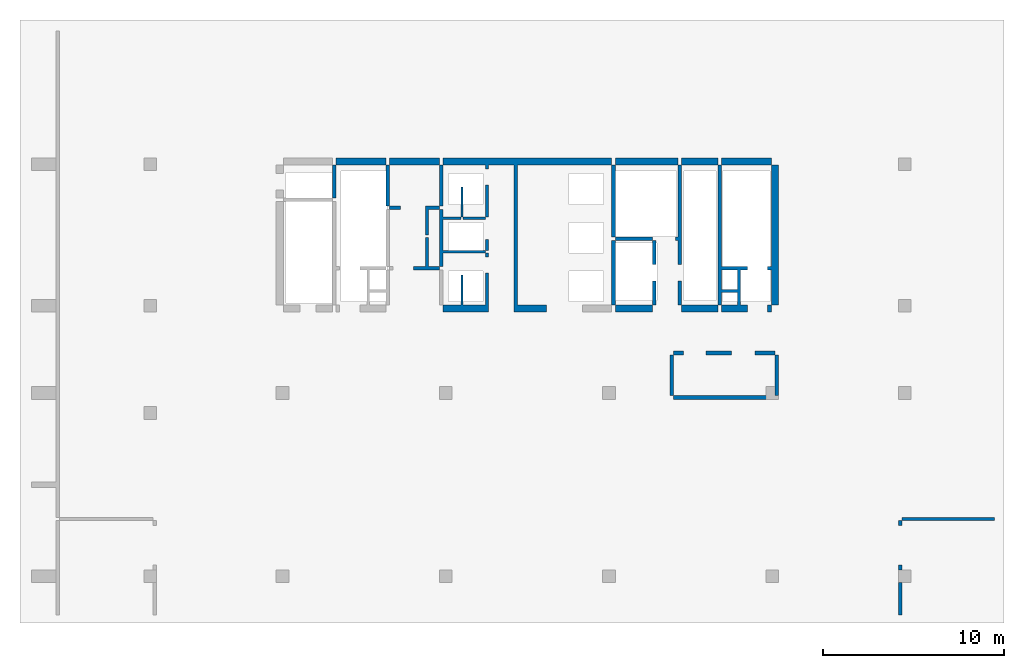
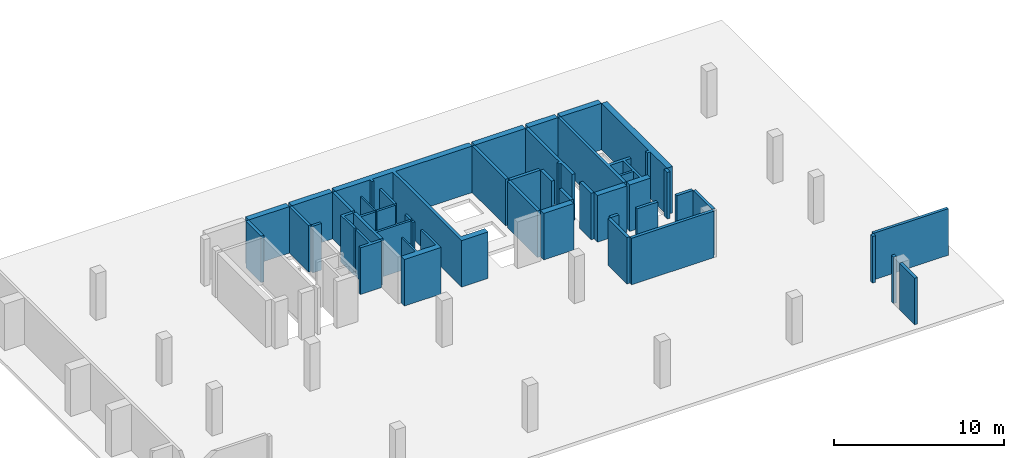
# One storey, part 2 of 2: 41 walls.
"""IFC4 building model written with IfcOpenShell, lengths in millimetres."""

from ifc_helpers import new_model, si_unit, frame, origin, place, context, project, spatial, triangles, element, save


model = new_model("IFC4")

# Units and contexts
model_context = context("Model", 3, precision=0.001, world=origin())
ifc_project = project(units=[si_unit("LENGTHUNIT", "METRE", prefix="MILLI"), si_unit("AREAUNIT", "SQUARE_METRE"), si_unit("VOLUMEUNIT", "CUBIC_METRE")], contexts=[model_context])

# Site, building, storey
site_placement = place(None, origin())
site = spatial("IfcSite", under=ifc_project, at=site_placement, Name="Site", CompositionType="ELEMENT")
building_placement = place(site_placement, origin())
building = spatial("IfcBuilding", under=site, at=building_placement, Name="INNOCEAN", CompositionType="ELEMENT")
storey_placement = place(building_placement, frame((0.0, 0.0, -16200.0)))
storey = spatial("IfcBuildingStorey", under=building, at=storey_placement, Name="B4", CompositionType="ELEMENT", Elevation=-16200.0)

# Walls
wall_1_placement = place(storey_placement, origin())
element("IfcWall", 1, at=wall_1_placement, inside=storey, Name="B4_Walls_B4_015", context=model_context, shape_type="Tessellation", body=[
    triangles([(16429.3, 23222.2, 0.0), (16429.3, 25025.8, 0.0), (16429.3, 25025.8, 3350.0), (16429.3, 23222.2, 3350.0), (16226.2, 23222.2, 0.0), (16226.2, 23222.2, 3350.0), (16226.2, 25025.8, 0.0), (16226.2, 25025.8, 3350.0)], [[1, 2, 3], [1, 3, 4], [5, 1, 4], [5, 4, 6], [7, 5, 6], [7, 6, 8], [2, 7, 8], [2, 8, 3], [7, 2, 1], [7, 1, 5], [3, 8, 4], [4, 8, 6]], closed=True),
])
wall_2_placement = place(storey_placement, origin())
element("IfcWall", 2, at=wall_2_placement, inside=storey, Name="B4_Walls_B4_018", context=model_context, shape_type="Tessellation", body=[
    triangles([(19183.7, 25419.5, 0.0), (16429.3, 25419.5, 0.0), (16429.3, 25419.5, 3350.0), (19183.7, 25419.5, 3350.0), (19183.7, 25025.8, 0.0), (19183.7, 25025.8, 3350.0), (16429.3, 25025.8, 0.0), (16429.3, 25025.8, 3350.0)], [[1, 2, 3], [1, 3, 4], [5, 1, 4], [5, 4, 6], [7, 5, 6], [7, 6, 8], [2, 7, 8], [2, 8, 3], [2, 1, 5], [2, 5, 7], [4, 3, 6], [6, 3, 8]], closed=True),
])
wall_3_placement = place(storey_placement, origin())
element("IfcWall", 3, at=wall_3_placement, inside=storey, Name="B4_Walls_B4_019", context=model_context, shape_type="Tessellation", body=[
    triangles([(23423.2, 18967.3, 0.0), (23321.7, 18967.3, 0.0), (23321.7, 18967.3, 3350.0), (23423.2, 18967.3, 3350.0), (23423.2, 18965.0, 0.0), (23423.2, 18965.0, 3350.0), (23425.0, 18965.0, 0.0), (23425.0, 18965.0, 3350.0), (23425.0, 17316.1, 3350.0), (23425.0, 17316.1, 0.0), (24679.9, 17316.1, 0.0), (24679.9, 17316.1, 3350.0), (24679.9, 19068.9, 0.0), (24679.9, 19068.9, 3350.0), (24680.0, 19068.9, 3350.0), (24680.0, 19068.9, 0.0), (24680.0, 19070.0, 0.0), (24680.0, 19070.0, 3350.0), (24830.0, 19070.0, 0.0), (24830.0, 19070.0, 3350.0), (24830.0, 19068.9, 0.0), (24830.0, 19068.9, 3350.0), (24832.2, 19068.9, 3350.0), (24832.2, 19068.9, 0.0), (24832.2, 17316.1, 0.0), (24832.2, 17316.1, 3350.0), (24832.2, 16922.4, 0.0), (24832.2, 16922.4, 3350.0), (22331.6, 16922.4, 0.0), (22331.6, 16922.4, 3350.0), (22331.6, 17316.1, 0.0), (22331.6, 17316.1, 3350.0), (23320.0, 17316.1, 0.0), (23320.0, 17316.1, 3350.0), (23320.0, 18965.0, 3350.0), (23320.0, 18965.0, 0.0), (23321.7, 18965.0, 0.0), (23321.7, 18965.0, 3350.0)], [[1, 2, 3], [1, 3, 4], [5, 1, 4], [5, 4, 6], [7, 5, 6], [7, 6, 8], [7, 8, 9], [10, 7, 9], [11, 10, 9], [11, 9, 12], [13, 11, 12], [13, 12, 14], [13, 14, 15], [16, 13, 15], [17, 16, 15], [17, 15, 18], [19, 17, 18], [19, 18, 20], [21, 19, 20], [21, 20, 22], [21, 22, 23], [24, 21, 23], [25, 24, 23], [25, 23, 26], [27, 25, 26], [27, 26, 28], [29, 27, 28], [29, 28, 30], [31, 29, 30], [31, 30, 32], [33, 31, 32], [33, 32, 34], [33, 34, 35], [36, 33, 35], [37, 36, 35], [37, 35, 38], [2, 37, 38], [2, 38, 3], [11, 25, 27], [10, 11, 27], [21, 24, 25], [21, 25, 11], [16, 19, 21], [16, 21, 11], [13, 16, 11], [17, 19, 16], [29, 10, 27], [29, 33, 10], [31, 33, 29], [5, 7, 10], [5, 10, 33], [37, 1, 5], [37, 5, 33], [36, 37, 33], [2, 1, 37], [26, 12, 28], [12, 9, 28], [23, 22, 26], [26, 22, 12], [20, 15, 22], [22, 15, 12], [15, 14, 12], [20, 18, 15], [9, 30, 28], [34, 30, 9], [34, 32, 30], [8, 6, 9], [9, 6, 34], [4, 38, 6], [6, 38, 34], [38, 35, 34], [4, 3, 38]], closed=True),
])
wall_4_placement = place(storey_placement, origin())
element("IfcWall", 4, at=wall_4_placement, inside=storey, Name="B4_Walls_B4_022", context=model_context, shape_type="Tessellation", body=[
    triangles([(21366.9, 21024.9, 0.0), (21366.9, 19449.9, 0.0), (21366.9, 19449.9, 3350.0), (21366.9, 21024.9, 3350.0), (21519.3, 21024.9, 3350.0), (21519.3, 21024.9, 0.0), (21519.3, 19449.9, 0.0), (21519.3, 19449.9, 3350.0), (22128.5, 19449.9, 0.0), (22128.5, 19449.9, 3350.0), (22128.5, 19246.7, 0.0), (22128.5, 19246.7, 3350.0), (20694.2, 19246.7, 0.0), (20694.2, 19246.7, 3350.0), (20694.2, 19449.9, 0.0), (20694.2, 19449.9, 3350.0)], [[1, 2, 3], [1, 3, 4], [1, 4, 5], [6, 1, 5], [7, 6, 5], [7, 5, 8], [9, 7, 8], [9, 8, 10], [11, 9, 10], [11, 10, 12], [13, 11, 12], [13, 12, 14], [15, 13, 14], [15, 14, 16], [2, 15, 16], [2, 16, 3], [7, 9, 11], [2, 7, 11], [13, 2, 11], [15, 2, 13], [1, 6, 7], [1, 7, 2], [10, 8, 12], [8, 3, 12], [3, 14, 12], [3, 16, 14], [5, 4, 8], [8, 4, 3]], closed=True),
])
wall_5_placement = place(storey_placement, origin())
element("IfcWall", 5, at=wall_5_placement, inside=storey, Name="B4_Walls_B4_023", context=model_context, shape_type="Tessellation", body=[
    triangles([(24832.2, 19970.7, 0.0), (24832.2, 20173.9, 0.0), (24832.2, 20173.9, 3350.0), (24832.2, 19970.7, 3350.0), (24679.9, 19970.7, 0.0), (24679.9, 19970.7, 3350.0), (24679.9, 20173.9, 0.0), (24679.9, 20173.9, 3350.0)], [[1, 2, 3], [1, 3, 4], [5, 1, 4], [5, 4, 6], [7, 5, 6], [7, 6, 8], [2, 7, 8], [2, 8, 3], [7, 2, 1], [7, 1, 5], [3, 8, 4], [4, 8, 6]], closed=True),
])
wall_6_placement = place(storey_placement, origin())
element("IfcWall", 6, at=wall_6_placement, inside=storey, Name="B4_Walls_B4_024", context=model_context, shape_type="Tessellation", body=[
    triangles([(22128.5, 22574.4, 0.0), (22128.5, 19449.9, 0.0), (22128.5, 19449.9, 3350.0), (22128.5, 22574.4, 3350.0), (22331.6, 22574.4, 0.0), (22331.6, 22574.4, 3350.0), (22331.6, 22168.0, 0.0), (22331.6, 22168.0, 3350.0), (23321.7, 22168.0, 3350.0), (23321.7, 22168.0, 0.0), (23321.7, 22015.6, 0.0), (23321.7, 22015.6, 3350.0), (22331.6, 22015.6, 3350.0), (22331.6, 22015.6, 0.0), (22331.6, 20326.3, 0.0), (22331.6, 20326.3, 3350.0), (24679.9, 20326.3, 0.0), (24679.9, 20326.3, 3350.0), (24679.9, 20173.9, 3350.0), (24679.9, 20173.9, 0.0), (22331.6, 20173.9, 0.0), (22331.6, 20173.9, 3350.0), (22331.6, 19449.9, 3350.0), (22331.6, 19449.9, 0.0)], [[1, 2, 3], [1, 3, 4], [5, 1, 4], [5, 4, 6], [7, 5, 6], [7, 6, 8], [7, 8, 9], [10, 7, 9], [11, 10, 9], [11, 9, 12], [11, 12, 13], [14, 11, 13], [15, 14, 13], [15, 13, 16], [17, 15, 16], [17, 16, 18], [17, 18, 19], [20, 17, 19], [21, 20, 19], [21, 19, 22], [21, 22, 23], [24, 21, 23], [2, 24, 23], [2, 23, 3], [21, 24, 2], [15, 17, 20], [15, 20, 21], [15, 21, 2], [14, 10, 11], [7, 10, 14], [1, 5, 7], [1, 14, 15], [1, 7, 14], [2, 1, 15], [23, 22, 3], [18, 16, 19], [19, 16, 22], [22, 16, 3], [9, 13, 12], [9, 8, 13], [6, 4, 8], [13, 4, 16], [8, 4, 13], [4, 3, 16]], closed=True),
])
wall_7_placement = place(storey_placement, origin())
element("IfcWall", 7, at=wall_7_placement, inside=storey, Name="B4_Walls_B4_025", context=model_context, shape_type="Tessellation", body=[
    triangles([(24679.9, 20326.3, 0.0), (24832.2, 20326.3, 0.0), (24832.2, 20326.3, 3350.0), (24679.9, 20326.3, 3350.0), (24679.9, 20923.3, 0.0), (24679.9, 20923.3, 3350.0), (24832.2, 20923.3, 0.0), (24832.2, 20923.3, 3350.0)], [[1, 2, 3], [1, 3, 4], [5, 1, 4], [5, 4, 6], [7, 5, 6], [7, 6, 8], [2, 7, 8], [2, 8, 3], [5, 2, 1], [5, 7, 2], [3, 6, 4], [8, 6, 3]], closed=True),
])
wall_8_placement = place(storey_placement, origin())
element("IfcWall", 8, at=wall_8_placement, inside=storey, Name="B4_Walls_B4_027", context=model_context, shape_type="Tessellation", body=[
    triangles([(22128.5, 22765.0, 0.0), (21366.9, 22765.0, 0.0), (21366.9, 22765.0, 3350.0), (22128.5, 22765.0, 3350.0), (22128.5, 22574.4, 0.0), (22128.5, 22574.4, 3350.0), (21519.3, 22574.4, 0.0), (21519.3, 22574.4, 3350.0), (21519.3, 21177.3, 0.0), (21519.3, 21177.3, 3350.0), (21366.9, 21177.3, 3350.0), (21366.9, 21177.3, 0.0), (21366.9, 22574.4, 0.0), (21366.9, 22574.4, 3350.0)], [[1, 2, 3], [1, 3, 4], [5, 1, 4], [5, 4, 6], [7, 5, 6], [7, 6, 8], [9, 7, 8], [9, 8, 10], [9, 10, 11], [12, 9, 11], [13, 12, 11], [13, 11, 14], [2, 13, 14], [2, 14, 3], [7, 1, 5], [13, 7, 9], [13, 9, 12], [2, 1, 7], [2, 7, 13], [4, 8, 6], [8, 14, 10], [10, 14, 11], [4, 3, 8], [8, 3, 14]], closed=True),
])
wall_9_placement = place(storey_placement, origin())
element("IfcWall", 9, at=wall_9_placement, inside=storey, Name="B4_Walls_B4_028", context=model_context, shape_type="Tessellation", body=[
    triangles([(23423.2, 22168.0, 0.0), (23423.2, 22168.0, 3350.0), (24679.9, 22168.0, 3350.0), (24679.9, 22168.0, 0.0), (24679.9, 22015.6, 0.0), (24679.9, 22015.6, 3350.0), (23423.2, 22015.6, 3350.0), (23423.2, 22015.6, 0.0)], [[1, 2, 3], [4, 1, 3], [5, 4, 3], [5, 3, 6], [5, 6, 7], [8, 5, 7], [1, 8, 7], [1, 7, 2], [1, 4, 5], [1, 5, 8], [3, 2, 6], [6, 2, 7]], closed=True),
])
wall_10_placement = place(storey_placement, origin())
element("IfcWall", 10, at=wall_10_placement, inside=storey, Name="B4_Walls_B4_029", context=model_context, shape_type="Tessellation", body=[
    triangles([(19970.7, 22574.4, 0.0), (19970.7, 22765.0, 0.0), (19970.7, 22765.0, 3350.0), (19970.7, 22574.4, 3350.0), (19374.1, 22574.4, 0.0), (19374.1, 22574.4, 3350.0), (19374.1, 22765.0, 0.0), (19374.1, 22765.0, 3350.0)], [[1, 2, 3], [1, 3, 4], [5, 1, 4], [5, 4, 6], [7, 5, 6], [7, 6, 8], [2, 7, 8], [2, 8, 3], [7, 2, 1], [7, 1, 5], [3, 8, 4], [4, 8, 6]], closed=True),
])
wall_11_placement = place(storey_placement, origin())
element("IfcWall", 11, at=wall_11_placement, inside=storey, Name="B4_Walls_B4_030", context=model_context, shape_type="Tessellation", body=[
    triangles([(23423.2, 23819.2, 0.0), (23423.2, 23819.2, 3350.0), (23423.2, 22168.0, 3350.0), (23423.2, 22168.0, 0.0), (23321.7, 22168.0, 0.0), (23321.7, 22168.0, 3350.0), (23321.7, 23819.2, 3350.0), (23321.7, 23819.2, 0.0)], [[1, 2, 3], [4, 1, 3], [5, 4, 3], [5, 3, 6], [5, 6, 7], [8, 5, 7], [1, 8, 7], [1, 7, 2], [8, 1, 4], [8, 4, 5], [2, 7, 3], [3, 7, 6]], closed=True),
])
wall_12_placement = place(storey_placement, origin())
element("IfcWall", 12, at=wall_12_placement, inside=storey, Name="B4_Walls_B4_031", context=model_context, shape_type="Tessellation", body=[
    triangles([(19374.1, 22765.0, 0.0), (19374.1, 25025.8, 0.0), (19374.1, 25025.8, 3350.0), (19374.1, 22765.0, 3350.0), (19183.7, 22765.0, 0.0), (19183.7, 22765.0, 3350.0), (19183.7, 25025.8, 0.0), (19183.7, 25025.8, 3350.0)], [[1, 2, 3], [1, 3, 4], [5, 1, 4], [5, 4, 6], [7, 5, 6], [7, 6, 8], [2, 7, 8], [2, 8, 3], [7, 2, 1], [7, 1, 5], [3, 8, 4], [4, 8, 6]], closed=True),
])
wall_13_placement = place(storey_placement, origin())
element("IfcWall", 13, at=wall_13_placement, inside=storey, Name="B4_Walls_B4_032", context=model_context, shape_type="Tessellation", body=[
    triangles([(22331.6, 22765.0, 0.0), (22331.6, 25025.8, 0.0), (22331.6, 25025.8, 3350.0), (22331.6, 22765.0, 3350.0), (22128.5, 22765.0, 0.0), (22128.5, 22765.0, 3350.0), (22128.5, 25025.8, 0.0), (22128.5, 25025.8, 3350.0)], [[1, 2, 3], [1, 3, 4], [5, 1, 4], [5, 4, 6], [7, 5, 6], [7, 6, 8], [2, 7, 8], [2, 8, 3], [7, 2, 1], [7, 1, 5], [3, 8, 4], [4, 8, 6]], closed=True),
])
wall_14_placement = place(storey_placement, origin())
element("IfcWall", 14, at=wall_14_placement, inside=storey, Name="B4_Walls_B4_033", context=model_context, shape_type="Tessellation", body=[
    triangles([(22128.5, 25419.5, 0.0), (19374.1, 25419.5, 0.0), (19374.1, 25419.5, 3350.0), (22128.5, 25419.5, 3350.0), (22128.5, 25025.8, 0.0), (22128.5, 25025.8, 3350.0), (19374.1, 25025.8, 0.0), (19374.1, 25025.8, 3350.0)], [[1, 2, 3], [1, 3, 4], [5, 1, 4], [5, 4, 6], [7, 5, 6], [7, 6, 8], [2, 7, 8], [2, 8, 3], [2, 1, 5], [2, 5, 7], [4, 3, 6], [6, 3, 8]], closed=True),
])
wall_15_placement = place(storey_placement, origin())
element("IfcWall", 15, at=wall_15_placement, inside=storey, Name="B4_Walls_B4_034", context=model_context, shape_type="Tessellation", body=[
    triangles([(35024.8, 14572.6, 0.0), (34821.8, 14572.6, 0.0), (34821.8, 14572.6, 3350.0), (35024.8, 14572.6, 3350.0), (35024.8, 12324.5, 0.0), (35024.8, 12324.5, 3350.0), (34821.8, 12324.5, 0.0), (34821.8, 12324.5, 3350.0)], [[1, 2, 3], [1, 3, 4], [5, 1, 4], [5, 4, 6], [7, 5, 6], [7, 6, 8], [2, 7, 8], [2, 8, 3], [2, 1, 5], [2, 5, 7], [4, 3, 6], [6, 3, 8]], closed=True),
])
wall_16_placement = place(storey_placement, origin())
element("IfcWall", 16, at=wall_16_placement, inside=storey, Name="B4_Walls_B4_035", context=model_context, shape_type="Tessellation", body=[
    triangles([(35024.8, 14572.6, 0.0), (35024.8, 14572.6, 3350.0), (35024.8, 14775.8, 3350.0), (35024.8, 14775.8, 0.0), (35570.7, 14775.8, 0.0), (35570.7, 14775.8, 3350.0), (35570.7, 14572.6, 3350.0), (35570.7, 14572.6, 0.0)], [[1, 2, 3], [4, 1, 3], [5, 4, 3], [5, 3, 6], [5, 6, 7], [8, 5, 7], [1, 8, 7], [1, 7, 2], [4, 5, 8], [4, 8, 1], [6, 3, 7], [7, 3, 2]], closed=True),
])
wall_17_placement = place(storey_placement, origin())
element("IfcWall", 17, at=wall_17_placement, inside=storey, Name="B4_Walls_B4_036", context=model_context, shape_type="Tessellation", body=[
    triangles([(38223.5, 14775.0, 0.0), (38223.5, 14775.8, 0.0), (38223.5, 14775.8, 3350.0), (38223.5, 14775.0, 3350.0), (38225.0, 14775.0, 0.0), (38225.0, 14775.0, 3350.0), (38225.0, 14575.0, 0.0), (38225.0, 14575.0, 3350.0), (38223.5, 14575.0, 0.0), (38223.5, 14575.0, 3350.0), (38223.5, 14572.6, 0.0), (38223.5, 14572.6, 3350.0), (36814.6, 14572.6, 0.0), (36814.6, 14572.6, 3350.0), (36814.6, 14775.8, 3350.0), (36814.6, 14775.8, 0.0)], [[1, 2, 3], [1, 3, 4], [5, 1, 4], [5, 4, 6], [7, 5, 6], [7, 6, 8], [9, 7, 8], [9, 8, 10], [11, 9, 10], [11, 10, 12], [13, 11, 12], [13, 12, 14], [13, 14, 15], [16, 13, 15], [2, 16, 15], [2, 15, 3], [1, 5, 7], [1, 7, 9], [13, 9, 11], [16, 2, 1], [16, 9, 13], [16, 1, 9], [6, 4, 8], [8, 4, 10], [10, 14, 12], [3, 15, 4], [10, 15, 14], [4, 15, 10]], closed=True),
])
wall_18_placement = place(storey_placement, origin())
element("IfcWall", 18, at=wall_18_placement, inside=storey, Name="B4_Walls_B4_037", context=model_context, shape_type="Tessellation", body=[
    triangles([(24832.2, 24822.6, 0.0), (24832.2, 25025.8, 0.0), (24832.2, 25025.8, 3350.0), (24832.2, 24822.6, 3350.0), (24679.9, 24822.6, 0.0), (24679.9, 24822.6, 3350.0), (24679.9, 25025.8, 0.0), (24679.9, 25025.8, 3350.0), (22331.6, 25025.8, 0.0), (22331.6, 25025.8, 3350.0), (22331.6, 25419.5, 0.0), (22331.6, 25419.5, 3350.0), (31623.1, 25419.5, 0.0), (31623.1, 25419.5, 3350.0), (31623.1, 25025.8, 0.0), (31623.1, 25025.8, 3350.0), (26431.5, 25025.8, 3350.0), (26431.5, 25025.8, 0.0), (26431.5, 17316.1, 0.0), (26431.5, 17316.1, 3350.0), (28030.9, 17316.1, 0.0), (28030.9, 17316.1, 3350.0), (28030.9, 16922.4, 0.0), (28030.9, 16922.4, 3350.0), (28030.0, 16922.4, 0.0), (28030.0, 16922.4, 3350.0), (28030.0, 16920.0, 0.0), (28030.0, 16920.0, 3350.0), (26230.0, 16920.0, 0.0), (26230.0, 16920.0, 3350.0), (26230.0, 16922.4, 0.0), (26230.0, 16922.4, 3350.0), (26228.4, 16922.4, 3350.0), (26228.4, 16922.4, 0.0), (26228.4, 17316.1, 0.0), (26228.4, 17316.1, 3350.0), (26228.4, 25025.8, 0.0), (26228.4, 25025.8, 3350.0)], [[1, 2, 3], [1, 3, 4], [5, 1, 4], [5, 4, 6], [7, 5, 6], [7, 6, 8], [9, 7, 8], [9, 8, 10], [11, 9, 10], [11, 10, 12], [13, 11, 12], [13, 12, 14], [15, 13, 14], [15, 14, 16], [17, 15, 16], [18, 15, 17], [19, 18, 17], [19, 17, 20], [21, 19, 20], [21, 20, 22], [23, 21, 22], [23, 22, 24], [25, 23, 24], [25, 24, 26], [27, 25, 26], [27, 26, 28], [29, 27, 28], [29, 28, 30], [31, 29, 30], [31, 30, 32], [31, 32, 33], [34, 31, 33], [35, 34, 33], [35, 33, 36], [37, 35, 36], [37, 36, 38], [2, 37, 38], [2, 38, 3], [21, 23, 25], [19, 25, 27], [19, 27, 29], [19, 29, 31], [19, 21, 25], [35, 31, 34], [35, 19, 31], [18, 13, 15], [37, 18, 19], [37, 19, 35], [2, 1, 5], [7, 2, 5], [11, 7, 9], [11, 13, 18], [11, 18, 37], [11, 37, 2], [11, 2, 7], [24, 22, 26], [26, 20, 28], [28, 20, 30], [30, 20, 32], [22, 20, 26], [32, 36, 33], [20, 36, 32], [14, 17, 16], [17, 38, 20], [20, 38, 36], [4, 3, 6], [3, 8, 6], [8, 12, 10], [14, 12, 17], [17, 12, 38], [38, 12, 3], [3, 12, 8]], closed=True),
])
wall_19_placement = place(storey_placement, origin())
element("IfcWall", 19, at=wall_19_placement, inside=storey, Name="B4_Walls_B4_039", context=model_context, shape_type="Tessellation", body=[
    triangles([(33869.8, 16922.4, 0.0), (33869.8, 17316.1, 0.0), (33869.8, 17316.1, 3350.0), (33869.8, 16922.4, 3350.0), (31826.2, 16922.4, 0.0), (31826.2, 16922.4, 3350.0), (31826.2, 17316.1, 0.0), (31826.2, 17316.1, 3350.0)], [[1, 2, 3], [1, 3, 4], [5, 1, 4], [5, 4, 6], [7, 5, 6], [7, 6, 8], [2, 7, 8], [2, 8, 3], [7, 2, 1], [7, 1, 5], [3, 8, 4], [4, 8, 6]], closed=True),
])
wall_20_placement = place(storey_placement, origin())
element("IfcWall", 20, at=wall_20_placement, inside=storey, Name="B4_Walls_B4_040", context=model_context, shape_type="Tessellation", body=[
    triangles([(37474.6, 16922.4, 0.0), (37474.6, 17316.1, 0.0), (37474.6, 17316.1, 3350.0), (37474.6, 16922.4, 3350.0), (35469.1, 16922.4, 0.0), (35469.1, 16922.4, 3350.0), (35469.1, 17316.1, 0.0), (35469.1, 17316.1, 3350.0)], [[1, 2, 3], [1, 3, 4], [5, 1, 4], [5, 4, 6], [7, 5, 6], [7, 6, 8], [2, 7, 8], [2, 8, 3], [7, 2, 1], [7, 1, 5], [3, 8, 4], [4, 8, 6]], closed=True),
])
wall_21_placement = place(storey_placement, origin())
element("IfcWall", 21, at=wall_21_placement, inside=storey, Name="B4_Walls_B4_041", context=model_context, shape_type="Tessellation", body=[
    triangles([(34072.9, 17316.1, 0.0), (34072.9, 18649.7, 0.0), (34072.9, 18649.7, 3350.0), (34072.9, 17316.1, 3350.0), (33869.8, 17316.1, 0.0), (33869.8, 17316.1, 3350.0), (33869.8, 18649.7, 0.0), (33869.8, 18649.7, 3350.0)], [[1, 2, 3], [1, 3, 4], [5, 1, 4], [5, 4, 6], [7, 5, 6], [7, 6, 8], [2, 7, 8], [2, 8, 3], [7, 2, 1], [7, 1, 5], [3, 8, 4], [4, 8, 6]], closed=True),
])
wall_22_placement = place(storey_placement, origin())
element("IfcWall", 22, at=wall_22_placement, inside=storey, Name="B4_Walls_B4_042", context=model_context, shape_type="Tessellation", body=[
    triangles([(35469.1, 17316.1, 0.0), (35469.1, 18649.7, 0.0), (35469.1, 18649.7, 3350.0), (35469.1, 17316.1, 3350.0), (35266.0, 17316.1, 0.0), (35266.0, 17316.1, 3350.0), (35266.0, 18649.7, 0.0), (35266.0, 18649.7, 3350.0)], [[1, 2, 3], [1, 3, 4], [5, 1, 4], [5, 4, 6], [7, 5, 6], [7, 6, 8], [2, 7, 8], [2, 8, 3], [7, 2, 1], [7, 1, 5], [3, 8, 4], [4, 8, 6]], closed=True),
])
wall_23_placement = place(storey_placement, origin())
element("IfcWall", 23, at=wall_23_placement, inside=storey, Name="B4_Walls_B4_043", context=model_context, shape_type="Tessellation", body=[
    triangles([(31826.2, 17316.1, 3350.0), (31826.2, 20872.5, 0.0), (31826.2, 20872.5, 3350.0), (31826.2, 17316.1, 0.0), (31623.1, 17316.1, 0.0), (31623.1, 17316.1, 3350.0), (31623.1, 20872.5, 3350.0), (31623.1, 20872.5, 0.0)], [[1, 2, 3], [4, 2, 1], [5, 4, 1], [5, 1, 6], [7, 5, 6], [8, 5, 7], [2, 8, 7], [2, 7, 3], [8, 2, 4], [8, 4, 5], [3, 7, 1], [1, 7, 6]], closed=True),
])
wall_24_placement = place(storey_placement, origin())
element("IfcWall", 24, at=wall_24_placement, inside=storey, Name="B4_Walls_B4_044", context=model_context, shape_type="Tessellation", body=[
    triangles([(34072.9, 19551.5, 0.0), (34072.9, 20872.5, 0.0), (34072.9, 20872.5, 3350.0), (34072.9, 19551.5, 3350.0), (33869.8, 19551.5, 0.0), (33869.8, 19551.5, 3350.0), (33869.8, 20872.5, 0.0), (33869.8, 20872.5, 3350.0)], [[1, 2, 3], [1, 3, 4], [5, 1, 4], [5, 4, 6], [7, 5, 6], [7, 6, 8], [2, 7, 8], [2, 8, 3], [7, 2, 1], [7, 1, 5], [3, 8, 4], [4, 8, 6]], closed=True),
])
wall_25_placement = place(storey_placement, origin())
element("IfcWall", 25, at=wall_25_placement, inside=storey, Name="B4_Walls_B4_045", context=model_context, shape_type="Tessellation", body=[
    triangles([(35469.1, 21075.7, 3350.0), (35469.1, 25025.8, 0.0), (35469.1, 25025.8, 3350.0), (35469.1, 21075.7, 0.0), (35469.1, 20872.5, 0.0), (35469.1, 20872.5, 3350.0), (35469.1, 19551.5, 0.0), (35469.1, 19551.5, 3350.0), (35266.0, 19551.5, 0.0), (35266.0, 19551.5, 3350.0), (35266.0, 20872.5, 0.0), (35266.0, 20872.5, 3350.0), (35126.4, 20872.5, 0.0), (35126.4, 20872.5, 3350.0), (35126.4, 21075.7, 0.0), (35126.4, 21075.7, 3350.0), (35266.0, 21075.7, 0.0), (35266.0, 21075.7, 3350.0), (35266.0, 25025.8, 3350.0), (35266.0, 25025.8, 0.0)], [[1, 2, 3], [4, 2, 1], [5, 4, 1], [5, 1, 6], [7, 5, 6], [7, 6, 8], [9, 7, 8], [9, 8, 10], [11, 9, 10], [11, 10, 12], [13, 11, 12], [13, 12, 14], [15, 13, 14], [15, 14, 16], [17, 15, 16], [17, 16, 18], [19, 17, 18], [20, 17, 19], [2, 20, 19], [2, 19, 3], [11, 5, 7], [11, 7, 9], [4, 5, 11], [17, 4, 11], [15, 11, 13], [15, 17, 11], [20, 2, 4], [20, 4, 17], [6, 12, 8], [8, 12, 10], [6, 1, 12], [1, 18, 12], [12, 16, 14], [18, 16, 12], [3, 19, 1], [1, 19, 18]], closed=True),
])
wall_26_placement = place(storey_placement, origin())
element("IfcWall", 26, at=wall_26_placement, inside=storey, Name="B4_Walls_B4_046", context=model_context, shape_type="Tessellation", body=[
    triangles([(33869.8, 20872.5, 0.0), (33869.8, 21075.7, 0.0), (33869.8, 21075.7, 3350.0), (33869.8, 20872.5, 3350.0), (31826.2, 20872.5, 0.0), (31826.2, 20872.5, 3350.0), (31826.2, 21075.7, 0.0), (31826.2, 21075.7, 3350.0)], [[1, 2, 3], [1, 3, 4], [5, 1, 4], [5, 4, 6], [7, 5, 6], [7, 6, 8], [2, 7, 8], [2, 8, 3], [7, 2, 1], [7, 1, 5], [3, 8, 4], [4, 8, 6]], closed=True),
])
wall_27_placement = place(storey_placement, origin())
element("IfcWall", 27, at=wall_27_placement, inside=storey, Name="B4_Walls_B4_047", context=model_context, shape_type="Tessellation", body=[
    triangles([(24832.2, 22168.0, 0.0), (24832.2, 23920.8, 0.0), (24832.2, 23920.8, 3350.0), (24832.2, 22168.0, 3350.0), (24679.9, 22168.0, 0.0), (24679.9, 22168.0, 3350.0), (24679.9, 23920.8, 0.0), (24679.9, 23920.8, 3350.0)], [[1, 2, 3], [1, 3, 4], [5, 1, 4], [5, 4, 6], [7, 5, 6], [7, 6, 8], [2, 7, 8], [2, 8, 3], [2, 1, 5], [7, 2, 5], [4, 3, 6], [3, 8, 6]], closed=True),
])
wall_28_placement = place(storey_placement, origin())
element("IfcWall", 28, at=wall_28_placement, inside=storey, Name="B4_Walls_B4_048", context=model_context, shape_type="Tessellation", body=[
    triangles([(31826.2, 21075.7, 3350.0), (31826.2, 25025.8, 0.0), (31826.2, 25025.8, 3350.0), (31826.2, 21075.7, 0.0), (31623.1, 21075.7, 0.0), (31623.1, 21075.7, 3350.0), (31623.1, 25025.8, 3350.0), (31623.1, 25025.8, 0.0)], [[1, 2, 3], [4, 2, 1], [5, 4, 1], [5, 1, 6], [7, 5, 6], [8, 5, 7], [2, 8, 7], [2, 7, 3], [2, 4, 5], [8, 2, 5], [1, 3, 6], [3, 7, 6]], closed=True),
])
wall_29_placement = place(storey_placement, origin())
element("IfcWall", 29, at=wall_29_placement, inside=storey, Name="B4_Walls_B4_049", context=model_context, shape_type="Tessellation", body=[
    triangles([(35266.0, 25025.8, 0.0), (35266.0, 25419.5, 0.0), (35266.0, 25419.5, 3350.0), (35266.0, 25025.8, 3350.0), (31826.2, 25025.8, 3350.0), (31826.2, 25025.8, 0.0), (31826.2, 25419.5, 0.0), (31826.2, 25419.5, 3350.0)], [[1, 2, 3], [1, 3, 4], [5, 1, 4], [6, 1, 5], [7, 6, 5], [7, 5, 8], [3, 7, 8], [2, 7, 3], [7, 2, 1], [7, 1, 6], [3, 8, 4], [4, 8, 5]], closed=True),
])
wall_30_placement = place(storey_placement, origin())
element("IfcWall", 30, at=wall_30_placement, inside=storey, Name="B4_Walls_B4_050", context=model_context, shape_type="Tessellation", body=[
    triangles([(37474.6, 25419.5, 0.0), (35469.1, 25419.5, 0.0), (35469.1, 25419.5, 3350.0), (37474.6, 25419.5, 3350.0), (37474.6, 25025.8, 0.0), (37474.6, 25025.8, 3350.0), (35469.1, 25025.8, 0.0), (35469.1, 25025.8, 3350.0)], [[1, 2, 3], [1, 3, 4], [5, 1, 4], [5, 4, 6], [7, 5, 6], [7, 6, 8], [2, 7, 8], [2, 8, 3], [2, 1, 5], [2, 5, 7], [4, 3, 6], [6, 3, 8]], closed=True),
])
wall_31_placement = place(storey_placement, origin())
element("IfcWall", 31, at=wall_31_placement, inside=storey, Name="B4_Walls_B4_051", context=model_context, shape_type="Tessellation", body=[
    triangles([(47616.5, 220.2, 0.0), (47616.5, 2023.7, 0.0), (47616.5, 2023.7, 3350.0), (47616.5, 220.2, 3350.0), (47413.4, 220.2, 0.0), (47413.4, 220.2, 3350.0), (47413.4, 2023.7, 0.0), (47413.4, 2023.7, 3350.0)], [[1, 2, 3], [1, 3, 4], [5, 1, 4], [5, 4, 6], [7, 5, 6], [7, 6, 8], [2, 7, 8], [2, 8, 3], [7, 2, 1], [7, 1, 5], [3, 8, 4], [4, 8, 6]], closed=True),
])
wall_32_placement = place(storey_placement, origin())
element("IfcWall", 32, at=wall_32_placement, inside=storey, Name="B4_Walls_B4_052", context=model_context, shape_type="Tessellation", body=[
    triangles([(47616.5, 2722.3, 0.0), (47616.5, 2976.3, 0.0), (47616.5, 2976.3, 3350.0), (47616.5, 2722.3, 3350.0), (47413.4, 2722.3, 0.0), (47413.4, 2722.3, 3350.0), (47413.4, 2976.3, 0.0), (47413.4, 2976.3, 3350.0)], [[1, 2, 3], [1, 3, 4], [5, 1, 4], [5, 4, 6], [7, 5, 6], [7, 6, 8], [2, 7, 8], [2, 8, 3], [2, 1, 5], [7, 2, 5], [4, 3, 6], [3, 8, 6]], closed=True),
])
wall_33_placement = place(storey_placement, origin())
element("IfcWall", 33, at=wall_33_placement, inside=storey, Name="B4_Walls_B4_053", context=model_context, shape_type="Tessellation", body=[
    triangles([(47413.4, 5427.7, 0.0), (47413.4, 5173.7, 0.0), (47413.4, 5173.7, 3350.0), (47413.4, 5427.7, 3350.0), (47616.5, 5427.7, 0.0), (47616.5, 5427.7, 3350.0), (47616.5, 5173.7, 0.0), (47616.5, 5173.7, 3350.0)], [[1, 2, 3], [1, 3, 4], [5, 1, 4], [5, 4, 6], [7, 5, 6], [7, 6, 8], [2, 7, 8], [2, 8, 3], [5, 7, 2], [1, 5, 2], [8, 6, 3], [6, 4, 3]], closed=True),
])
wall_34_placement = place(storey_placement, origin())
element("IfcWall", 34, at=wall_34_placement, inside=storey, Name="B4_Walls_B4_054", context=model_context, shape_type="Tessellation", body=[
    triangles([(52706.5, 5427.7, 0.0), (52706.5, 5618.2, 0.0), (52706.5, 5618.2, 3350.0), (52706.5, 5427.7, 3350.0), (47616.5, 5427.7, 0.0), (47616.5, 5427.7, 3350.0), (47616.5, 5618.2, 0.0), (47616.5, 5618.2, 3350.0)], [[1, 2, 3], [1, 3, 4], [5, 1, 4], [5, 4, 6], [7, 5, 6], [7, 6, 8], [2, 7, 8], [2, 8, 3], [7, 2, 1], [7, 1, 5], [3, 8, 4], [4, 8, 6]], closed=True),
])
wall_35_placement = place(storey_placement, origin())
element("IfcWall", 35, at=wall_35_placement, inside=storey, Name="B4_Walls_B4_055", context=model_context, shape_type="Tessellation", body=[
    triangles([(40622.6, 12121.3, 0.0), (40622.6, 12324.5, 0.0), (40622.6, 12324.5, 3350.0), (40622.6, 12121.3, 3350.0), (35024.8, 12121.3, 0.0), (35024.8, 12121.3, 3350.0), (35024.8, 12324.5, 0.0), (35024.8, 12324.5, 3350.0)], [[1, 2, 3], [1, 3, 4], [5, 1, 4], [5, 4, 6], [7, 5, 6], [7, 6, 8], [2, 7, 8], [2, 8, 3], [7, 2, 1], [7, 1, 5], [3, 8, 4], [4, 8, 6]], closed=True),
])
wall_36_placement = place(storey_placement, origin())
element("IfcWall", 36, at=wall_36_placement, inside=storey, Name="B4_Walls_B4_056", context=model_context, shape_type="Tessellation", body=[
    triangles([(40622.6, 12324.5, 0.0), (40813.0, 12324.5, 0.0), (40813.0, 12324.5, 3350.0), (40622.6, 12324.5, 3350.0), (40622.6, 14572.6, 0.0), (40622.6, 14572.6, 3350.0), (40813.0, 14572.6, 0.0), (40813.0, 14572.6, 3350.0)], [[1, 2, 3], [1, 3, 4], [5, 1, 4], [5, 4, 6], [7, 5, 6], [7, 6, 8], [2, 7, 8], [2, 8, 3], [7, 2, 1], [5, 7, 1], [3, 8, 4], [8, 6, 4]], closed=True),
])
wall_37_placement = place(storey_placement, origin())
element("IfcWall", 37, at=wall_37_placement, inside=storey, Name="B4_Walls_B4_057", context=model_context, shape_type="Tessellation", body=[
    triangles([(40622.6, 14775.8, 0.0), (40622.6, 14775.8, 3350.0), (40622.6, 14572.6, 3350.0), (40622.6, 14572.6, 0.0), (39518.2, 14572.6, 3350.0), (39518.2, 14572.6, 0.0), (39518.2, 14775.8, 3350.0), (39518.2, 14775.8, 0.0)], [[1, 2, 3], [4, 1, 3], [4, 3, 5], [6, 4, 5], [6, 5, 7], [8, 6, 7], [8, 7, 2], [1, 8, 2], [8, 1, 4], [8, 4, 6], [2, 7, 3], [3, 7, 5]], closed=True),
])
wall_38_placement = place(storey_placement, origin())
element("IfcWall", 38, at=wall_38_placement, inside=storey, Name="B4_Walls_B4_058", context=model_context, shape_type="Tessellation", body=[
    triangles([(37665.0, 17316.1, 0.0), (37665.0, 16922.4, 0.0), (37665.0, 16922.4, 3350.0), (37665.0, 17316.1, 3350.0), (39099.4, 16922.4, 0.0), (39099.4, 16922.4, 3350.0), (39099.4, 17316.1, 0.0), (39099.4, 17316.1, 3350.0), (38720.0, 17316.1, 0.0), (38720.0, 17316.1, 3350.0), (38720.0, 19245.0, 0.0), (38720.0, 19245.0, 3350.0), (39100.0, 19245.0, 0.0), (39100.0, 19245.0, 3350.0), (39100.0, 19450.0, 0.0), (39100.0, 19450.0, 3350.0), (37665.0, 19450.0, 0.0), (37665.0, 19450.0, 3350.0), (37665.0, 25025.8, 0.0), (37665.0, 25025.8, 3350.0), (37474.6, 25025.8, 0.0), (37474.6, 25025.8, 3350.0), (37474.6, 19449.9, 0.0), (37474.6, 19449.9, 3350.0), (37474.6, 17316.1, 0.0), (37474.6, 17316.1, 3350.0), (37665.0, 18014.7, 0.0), (37665.0, 18014.7, 3350.0), (38565.0, 18014.7, 0.0), (38565.0, 18014.7, 3350.0), (38565.0, 17316.1, 0.0), (38565.0, 17316.1, 3350.0), (38565.0, 19245.0, 0.0), (38565.0, 19245.0, 3350.0), (37665.0, 19245.0, 3350.0), (37665.0, 19245.0, 0.0), (38565.0, 18167.1, 0.0), (38565.0, 18167.1, 3350.0), (37665.0, 18167.1, 0.0), (37665.0, 18167.1, 3350.0)], [[1, 2, 3], [1, 3, 4], [2, 5, 6], [2, 6, 3], [5, 7, 8], [5, 8, 6], [7, 9, 10], [7, 10, 8], [9, 11, 12], [9, 12, 10], [11, 13, 14], [11, 14, 12], [15, 16, 14], [13, 15, 14], [15, 17, 18], [15, 18, 16], [17, 19, 20], [17, 20, 18], [19, 21, 22], [19, 22, 20], [21, 23, 24], [21, 24, 22], [23, 25, 26], [23, 26, 24], [25, 1, 4], [25, 4, 26], [1, 27, 28], [1, 28, 4], [29, 30, 28], [27, 29, 28], [29, 31, 32], [29, 32, 30], [1, 4, 32], [31, 1, 32], [33, 34, 35], [36, 33, 35], [33, 37, 38], [33, 38, 34], [39, 40, 38], [37, 39, 38], [39, 36, 35], [39, 35, 40], [9, 7, 5], [31, 9, 5], [2, 31, 5], [29, 9, 31], [1, 31, 2], [27, 1, 25], [39, 29, 27], [39, 37, 29], [39, 27, 25], [11, 15, 13], [33, 11, 37], [33, 15, 11], [17, 33, 36], [17, 15, 33], [23, 36, 39], [23, 17, 36], [23, 39, 25], [21, 19, 17], [21, 17, 23], [11, 9, 29], [11, 29, 37], [8, 10, 6], [10, 32, 6], [32, 3, 6], [10, 30, 32], [32, 4, 3], [4, 28, 26], [30, 40, 28], [38, 40, 30], [28, 40, 26], [16, 12, 14], [12, 34, 38], [16, 34, 12], [34, 18, 35], [16, 18, 34], [35, 24, 40], [18, 24, 35], [40, 24, 26], [20, 22, 18], [18, 22, 24], [10, 12, 30], [30, 12, 38]], closed=True),
])
wall_39_placement = place(storey_placement, origin())
element("IfcWall", 39, at=wall_39_placement, inside=storey, Name="B4_Walls_B4_059", context=model_context, shape_type="Tessellation", body=[
    triangles([(40419.5, 16922.4, 0.0), (40419.5, 17316.1, 0.0), (40419.5, 17316.1, 3350.0), (40419.5, 16922.4, 3350.0), (40216.4, 16922.4, 0.0), (40216.4, 16922.4, 3350.0), (40216.4, 17316.1, 0.0), (40216.4, 17316.1, 3350.0)], [[1, 2, 3], [1, 3, 4], [5, 1, 4], [5, 4, 6], [7, 5, 6], [7, 6, 8], [2, 7, 8], [2, 8, 3], [7, 2, 1], [7, 1, 5], [3, 8, 4], [4, 8, 6]], closed=True),
])
wall_40_placement = place(storey_placement, origin())
element("IfcWall", 40, at=wall_40_placement, inside=storey, Name="B4_Walls_B4_060", context=model_context, shape_type="Tessellation", body=[
    triangles([(40813.0, 19449.9, 0.0), (40813.0, 25025.8, 0.0), (40813.0, 25025.8, 3350.0), (40813.0, 19449.9, 3350.0), (40813.0, 17316.1, 0.0), (40813.0, 17316.1, 3350.0), (40419.5, 17316.1, 0.0), (40419.5, 17316.1, 3350.0), (40419.5, 19245.0, 0.0), (40419.5, 19245.0, 3350.0), (40215.0, 19245.0, 0.0), (40215.0, 19245.0, 3350.0), (40215.0, 19450.0, 3350.0), (40215.0, 19450.0, 0.0), (40419.5, 19450.0, 0.0), (40419.5, 19450.0, 3350.0), (40419.5, 25025.8, 0.0), (40419.5, 25025.8, 3350.0)], [[1, 2, 3], [1, 3, 4], [5, 1, 4], [5, 4, 6], [7, 5, 6], [7, 6, 8], [9, 7, 8], [9, 8, 10], [11, 9, 10], [11, 10, 12], [11, 12, 13], [14, 11, 13], [15, 14, 13], [15, 13, 16], [17, 15, 16], [17, 16, 18], [2, 17, 18], [2, 18, 3], [9, 1, 5], [9, 5, 7], [15, 1, 9], [14, 9, 11], [14, 15, 9], [2, 1, 15], [17, 2, 15], [4, 10, 6], [6, 10, 8], [4, 16, 10], [10, 13, 12], [16, 13, 10], [4, 3, 16], [3, 18, 16]], closed=True),
])
wall_41_placement = place(storey_placement, origin())
element("IfcWall", 41, at=wall_41_placement, inside=storey, Name="B4_Walls_B4_061", context=model_context, shape_type="Tessellation", body=[
    triangles([(40419.5, 25025.8, 0.0), (40419.5, 25419.5, 0.0), (40419.5, 25419.5, 3350.0), (40419.5, 25025.8, 3350.0), (37665.0, 25025.8, 0.0), (37665.0, 25025.8, 3350.0), (37665.0, 25419.5, 0.0), (37665.0, 25419.5, 3350.0)], [[1, 2, 3], [1, 3, 4], [5, 1, 4], [5, 4, 6], [7, 5, 6], [7, 6, 8], [2, 7, 8], [2, 8, 3], [7, 2, 1], [7, 1, 5], [3, 8, 4], [4, 8, 6]], closed=True),
])

save(model, "model.ifc")
